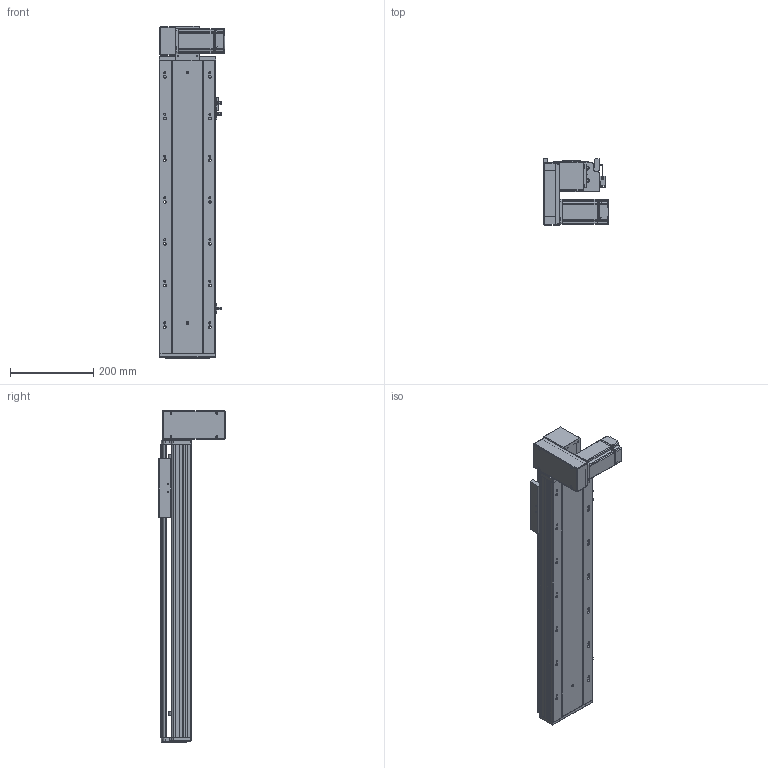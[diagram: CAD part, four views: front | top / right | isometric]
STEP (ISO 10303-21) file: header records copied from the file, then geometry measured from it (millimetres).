
FILE_DESCRIPTION (( 'STEP AP203' ), '1' );
FILE_NAME ('RY140-T-300-DL.SLDASM_450.step', '2021-03-01T06:05:38', ( '盈信电脑' ), ( '东莞市道滘镇水果街19号' ), 'SwSTEP 2.0', 'SolidWorks 2012', '' );
FILE_SCHEMA (( 'CONFIG_CONTROL_DESIGN' ));
Length unit declared in the file: millimetre
Products named in the file (18): 滅袉蝶18-10; RY140-T-300-DL.SLDASM_450; RY140-T萇儂欶; RY140-T翋肮謫裔啣; RY120-T蹟翐M4; RY120-T主同步轮轴承压盖; 侂狟400W侜督萇儂; RY140-T萇儂假蚾啣; RY140-T翋肮祭謫盓傅釱; RY120-T肮祭湍揤踡輸1; 15; RY140綴裔啣; 覜茼ん672; RY120-T肮祭湍揤踡輸2; RY120外置感应片(140共用）; RY140肮祭謫臏賑輸; RY140-T-300-DL倰第菁釱_450; RY140-T-300-DL倰第奻裔啣_450
Assembly tree (23 placements, depth 3):
  RY140-T-300-DL.SLDASM_450
    RY140-T-300-DL倰第菁釱_450
    RY140肮祭謫臏賑輸
    RY140-T-300-DL倰第奻裔啣_450
    RY140綴裔啣
    覜茼ん672  x3
    RY120外置感应片(140共用）
    RY120-T肮祭湍揤踡輸2
    RY120-T肮祭湍揤踡輸1
    RY140-T翋肮祭謫盓傅釱
    RY140-T萇儂假蚾啣
    侂狟400W侜督萇儂
      15
    RY120-T主同步轮轴承压盖
    RY120-T蹟翐M4  x4
    RY140-T萇儂欶
    滅袉蝶18-10  x2
    RY140-T翋肮謫裔啣
Bounding box: 157 x 158.5 x 796 mm (x, y, z)
Volume: 2677965.3 mm3; surface area: 988044.7 mm2
Topology: 22 solids, 22 shells, 2602 faces, 7130 edges, 4600 vertices
Faces by surface type: plane 1385, cylinder 935, cone 182, bspline 100
Entity records: 82580 total; most frequent: CARTESIAN_POINT 20243, ORIENTED_EDGE 12820, DIRECTION 12128, EDGE_CURVE 6410, VERTEX_POINT 4199, VECTOR 4134, LINE 4134, AXIS2_PLACEMENT_3D 3997
